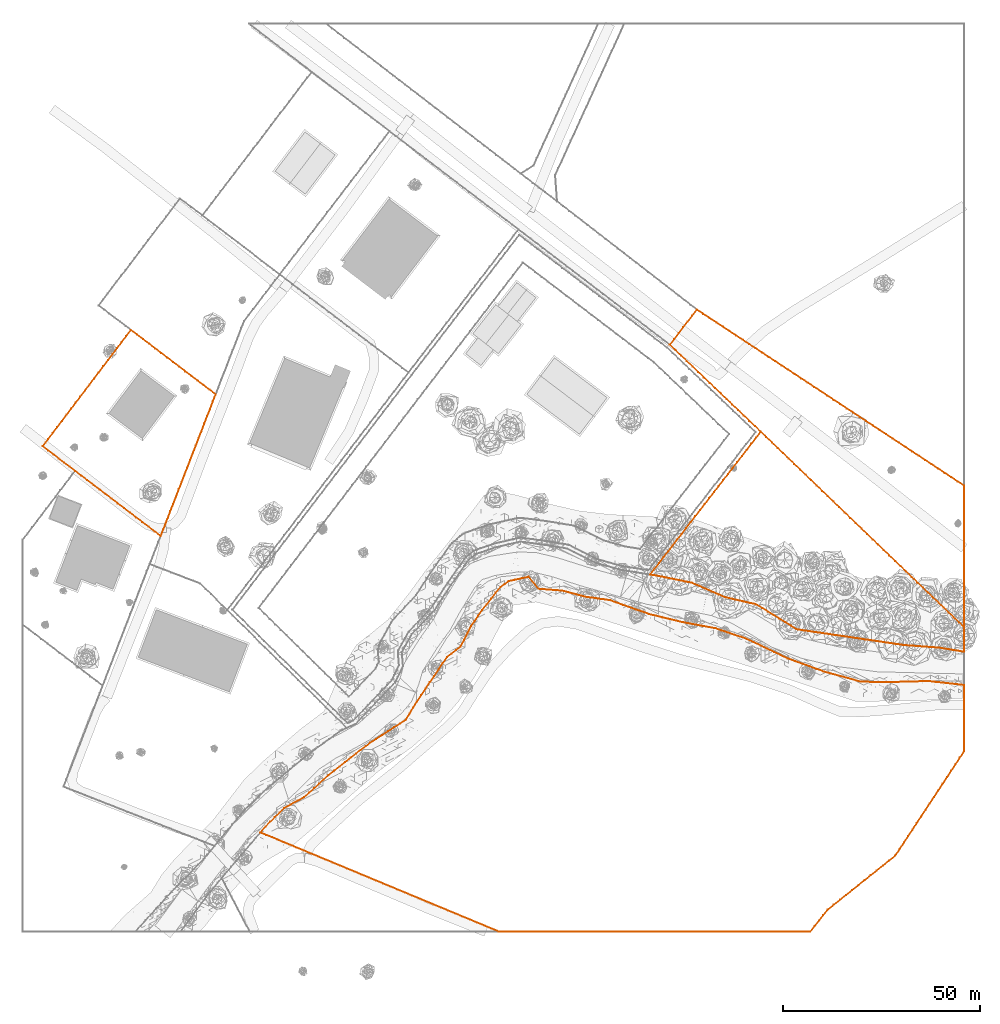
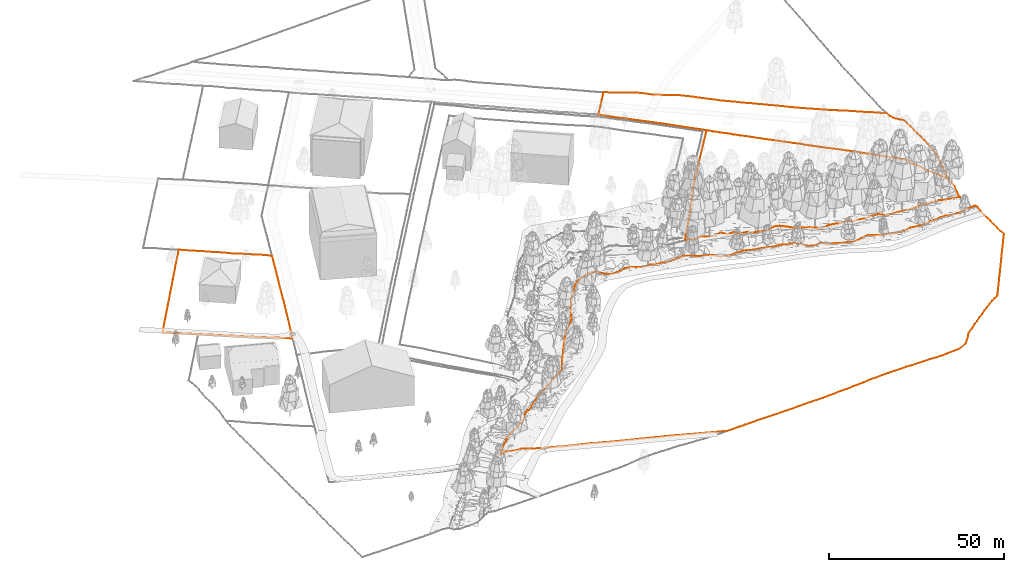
# Not in any storey, part 16 of 88: 4 geographic elements.
"""IFC4 model written with IfcOpenShell, lengths in metres."""

from ifc_helpers import new_model, entity, si_unit, origin_with_axes, place, context, subcontext, project, spatial, element, save


model = new_model("IFC4")

# Units and contexts
model_context = context("Model", 3, precision=1e-05, world=origin_with_axes())
body_context = subcontext(model_context, "Body", "Model", "MODEL_VIEW")
ifc_project = project(units=[si_unit("LENGTHUNIT", "METRE"), si_unit("AREAUNIT", "SQUARE_METRE"), si_unit("VOLUMEUNIT", "CUBIC_METRE"), si_unit("PLANEANGLEUNIT", "RADIAN")], contexts=[model_context])

# Sites
site_1_placement = place(None, origin_with_axes())
site_1 = spatial("IfcSite", under=ifc_project, at=site_1_placement, Name="CH907857693633", CompositionType="ELEMENT")
site_2_placement = place(None, origin_with_axes())
site_2 = spatial("IfcSite", under=site_1, at=site_2_placement, Name="Parcels", CompositionType="ELEMENT")

# Geographic elements
geographic_element_1_placement = place(None, origin_with_axes())
element("IfcGeographicElement", 1, at=geographic_element_1_placement, inside=site_2, Name="Parcel_CH333678576969", ObjectType="PARCEL", PredefinedType="USERDEFINED", context=body_context, shape_type="Curve3D", body=[
    entity("IfcIndexedPolyCurve", entity("IfcCartesianPointList3D", [[170.765514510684, 157.575146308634, 8.92451171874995], [172.417575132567, 156.486920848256, 8.97187499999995], [174.069635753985, 155.39869538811, 9.0239379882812], [175.721696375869, 154.310469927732, 9.03754882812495], [177.373756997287, 153.222244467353, 9.0946166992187], [179.025817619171, 152.134019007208, 9.17438964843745], [180.677878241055, 151.045793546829, 8.9670532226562], [182.329938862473, 149.957568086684, 8.7356079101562], [183.981999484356, 148.869342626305, 8.70930175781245], [185.634060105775, 147.781117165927, 8.7087524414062], [187.286120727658, 146.692891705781, 8.81452636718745], [188.938181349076, 145.604666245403, 8.76936035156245], [190.59024197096, 144.516440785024, 8.61457519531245], [192.242302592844, 143.428215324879, 8.42915039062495], [193.894363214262, 142.3399898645, 8.13544921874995], [195.546423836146, 141.251764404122, 7.9139526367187], [197.198484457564, 140.163538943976, 7.68159179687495], [198.850545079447, 139.075313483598, 7.4394653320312], [200.502605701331, 137.987088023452, 7.3128784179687], [202.154666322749, 136.898862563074, 7.17402343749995], [203.806726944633, 135.810637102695, 6.97187499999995], [205.458787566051, 134.72241164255, 6.8612182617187], [207.110848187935, 133.634186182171, 6.73383789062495], [208.762908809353, 132.545960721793, 6.61249999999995], [210.414969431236, 131.457735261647, 6.45344238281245], [212.06703005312, 130.369509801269, 6.32331542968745], [213.719090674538, 129.281284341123, 6.1626098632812], [215.371151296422, 128.193058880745, 5.9809692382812], [217.02321191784, 127.104833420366, 5.85139160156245], [218.675272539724, 126.01660796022, 5.73164062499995], [220.327333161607, 124.928382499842, 5.6502807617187], [221.979393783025, 123.840157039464, 5.56208496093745], [223.631454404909, 122.751931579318, 5.4636352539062], [225.283515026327, 121.663706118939, 5.4034545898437], [226.935575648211, 120.575480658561, 5.38032226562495], [228.587636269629, 119.487255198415, 5.32416992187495], [230.239696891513, 118.399029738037, 5.3335083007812], [231.891757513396, 117.310804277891, 5.1772583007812], [233.543818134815, 116.222578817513, 5.13911132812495], [235.195878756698, 115.134353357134, 5.1026733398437], [236.847939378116, 114.046127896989, 5.00239257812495], [238.5, 112.95790243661, 4.9128540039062], [238.5, 110.965221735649, 5.1622436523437], [238.5, 108.972541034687, 5.7679565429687], [238.5, 106.979860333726, 6.6125610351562], [238.5, 104.987179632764, 7.6372192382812], [238.5, 102.994498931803, 8.58833007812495], [238.5, 101.001818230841, 8.7799194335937], [238.5, 99.0091375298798, 8.75947265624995], [238.5, 97.0164568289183, 8.7616088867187], [238.5, 95.0237761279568, 8.6973999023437], [238.5, 93.0310954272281, 8.80390624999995], [238.5, 91.0384147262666, 8.76838378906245], [238.5, 89.0457340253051, 8.66730957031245], [238.5, 87.0530533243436, 8.6086547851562], [238.5, 85.0603726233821, 8.28962402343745], [238.5, 83.0676919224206, 7.20393066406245], [238.5, 81.0750112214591, 5.8814819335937], [238.5, 79.0823305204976, 4.61127929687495], [238.5, 77.0896498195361, 3.71772460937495], [237.193564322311, 78.3408368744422, 4.2642944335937], [235.887128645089, 79.5920239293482, 4.76984863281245], [234.5806929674, 80.8432109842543, 5.4398315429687], [233.274257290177, 82.0943980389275, 5.9685180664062], [231.967821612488, 83.3455850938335, 6.8308227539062], [230.6613859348, 84.5967721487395, 7.2011840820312], [229.354950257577, 85.8479592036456, 8.34516601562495], [228.048514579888, 87.0991462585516, 8.42255859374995], [226.631480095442, 88.4624910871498, 8.38471679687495], [225.214445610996, 89.8258359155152, 8.4040649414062], [223.797411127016, 91.1891807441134, 8.4543579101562], [222.38037664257, 92.5525255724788, 8.4991577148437], [220.963342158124, 93.915870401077, 8.5341918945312], [219.546307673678, 95.2792152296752, 8.56464843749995], [218.129273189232, 96.6425600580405, 8.6467407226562], [216.712238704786, 98.0059048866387, 8.59724121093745], [215.295204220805, 99.3692497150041, 8.61726074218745], [213.878169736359, 100.732594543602, 8.62629394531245], [212.461135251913, 102.095939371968, 8.5526245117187], [211.044100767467, 103.459284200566, 8.56428222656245], [209.627066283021, 104.822629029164, 8.5847290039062], [208.210031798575, 106.185973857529, 8.5348022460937], [206.792997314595, 107.549318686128, 8.64082031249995], [205.375962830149, 108.912663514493, 8.5854614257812], [203.958928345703, 110.276008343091, 8.59724121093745], [202.541893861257, 111.639353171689, 8.59260253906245], [201.12485937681, 113.002698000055, 8.61152343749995], [199.707824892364, 114.366042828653, 8.57380371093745], [198.290790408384, 115.729387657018, 8.5706909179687], [196.873755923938, 117.092732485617, 8.62189941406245], [195.456721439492, 118.456077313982, 8.6348999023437], [194.039686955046, 119.81942214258, 8.6132934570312], [192.6226524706, 121.182766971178, 8.6375854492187], [191.205617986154, 122.546111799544, 8.67255859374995], [189.788583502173, 123.909456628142, 8.6510131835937], [188.371549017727, 125.272801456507, 8.69318847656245], [186.954514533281, 126.636146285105, 8.74311523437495], [185.514014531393, 128.013271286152, 8.79328613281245], [184.073514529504, 129.390396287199, 8.7749145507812], [182.633014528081, 130.767521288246, 8.83918457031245], [181.192514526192, 132.144646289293, 8.8645141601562], [179.752014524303, 133.52177129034, 8.88618164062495], [178.311514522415, 134.898896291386, 8.92194824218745], [176.871014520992, 136.276021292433, 8.9189575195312], [175.430514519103, 137.65314629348, 8.9168823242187], [173.990014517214, 139.03027129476, 8.8963745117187], [172.549514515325, 140.407396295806, 8.8941772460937], [171.109014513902, 141.784521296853, 8.8709838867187], [169.668514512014, 143.1616462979, 8.91791992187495], [168.228014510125, 144.538771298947, 8.80341796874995], [166.787514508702, 145.915896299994, 8.8291137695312], [165.347014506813, 147.29302130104, 8.8986938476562], [163.906514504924, 148.670146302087, 8.9259155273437], [165.049681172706, 150.154312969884, 8.92939453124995], [166.192847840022, 151.638479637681, 8.8504760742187], [167.336014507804, 153.122646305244, 8.88410644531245], [168.479181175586, 154.606812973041, 8.8787963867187], [169.622347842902, 156.090979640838, 8.8570678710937], [170.765514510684, 157.575146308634, 8.92451171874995]]), None, False),
])
geographic_element_2_placement = place(None, origin_with_axes())
element("IfcGeographicElement", 2, at=geographic_element_2_placement, inside=site_2, Name="Parcel_CH345736786432", ObjectType="PARCEL", PredefinedType="USERDEFINED", context=body_context, shape_type="Curve3D", body=[
    entity("IfcIndexedPolyCurve", entity("IfcCartesianPointList3D", [[221.053514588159, 19.2491462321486, 4.10065917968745], [219.49587822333, 18.004328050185, 4.55891113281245], [217.938241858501, 16.7595098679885, 4.9921997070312], [216.380605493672, 15.5146916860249, 5.31757812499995], [214.822969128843, 14.2698735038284, 5.2505004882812], [213.265332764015, 13.0250553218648, 5.52973632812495], [211.70769639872, 11.7802371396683, 5.4586303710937], [210.150060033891, 10.5354189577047, 5.6926391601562], [208.592423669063, 9.29060077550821, 5.6629760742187], [207.034787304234, 8.04578259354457, 5.93732910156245], [205.477150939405, 6.8009644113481, 5.7049682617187], [203.919514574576, 5.55614622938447, 5.9119995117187], [202.81918568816, 4.16710967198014, 6.57893066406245], [201.71885680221, 2.77807311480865, 5.9956176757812], [200.618527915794, 1.38903655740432, 6.38251953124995], [199.518199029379, 0.0, 6.59223632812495], [197.545249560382, 0.0, 5.53376464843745], [195.57230009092, 0.0, 5.41010742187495], [193.599350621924, 0.0, 5.29780273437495], [191.626401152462, 0.0, 5.2284057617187], [189.653451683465, 0.0, 5.2312133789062], [187.680502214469, 0.0, 5.3250854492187], [185.707552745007, 0.0, 5.3242309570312], [183.734603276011, 0.0, 5.3072631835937], [181.761653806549, 0.0, 5.30781249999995], [179.788704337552, 0.0, 5.37958984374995], [177.815754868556, 0.0, 5.3260620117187], [175.842805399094, 0.0, 5.3357055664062], [173.869855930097, 0.0, 5.2910278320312], [171.896906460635, 0.0, 5.2402465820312], [169.923956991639, 0.0, 5.1568725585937], [167.951007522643, 0.0, 5.1015747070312], [165.978058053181, 0.0, 4.84138183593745], [164.005108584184, 0.0, 4.7696655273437], [162.032159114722, 0.0, 4.66022949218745], [160.059209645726, 0.0, 4.58247070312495], [158.086260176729, 0.0, 4.5632446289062], [156.113310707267, 0.0, 4.40095214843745], [154.140361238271, 0.0, 4.29414062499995], [152.167411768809, 0.0, 4.19587402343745], [150.194462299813, 0.0, 4.1524780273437], [148.221512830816, 0.0, 4.1497924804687], [146.248563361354, 0.0, 4.1135375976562], [144.275613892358, 0.0, 4.0267456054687], [142.302664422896, 0.0, 3.97675781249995], [140.329714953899, 0.0, 3.9513061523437], [138.356765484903, 0.0, 3.9362915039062], [136.383816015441, 0.0, 3.88972167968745], [134.410866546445, 0.0, 3.87995605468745], [132.437917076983, 0.0, 3.86213378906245], [130.464967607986, 0.0, 3.9095581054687], [128.49201813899, 0.0, 3.8414428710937], [126.519068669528, 0.0, 3.8045776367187], [124.546119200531, 0.0, 3.75983886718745], [122.573169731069, 0.0, 3.7349975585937], [120.600220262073, 0.0, 3.70441894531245], [118.771816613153, 0.760177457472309, 3.68757324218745], [116.943412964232, 1.52035491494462, 3.6203735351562], [115.115009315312, 2.2805323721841, 3.63105468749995], [113.286605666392, 3.04070982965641, 3.60786132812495], [111.458202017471, 3.80088728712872, 3.57709960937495], [109.629798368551, 4.56106474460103, 3.5564086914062], [107.80139471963, 5.32124220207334, 3.52094726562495], [105.972991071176, 6.08141965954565, 3.53303222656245], [104.144587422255, 6.84159711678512, 3.4757202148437], [102.316183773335, 7.60177457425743, 3.3794067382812], [100.487780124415, 8.36195203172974, 3.3422973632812], [98.6593764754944, 9.12212948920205, 3.25007324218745], [96.830972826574, 9.88230694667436, 3.21955566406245], [95.0025691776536, 10.6424844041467, 3.1294067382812], [93.1741655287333, 11.4026618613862, 3.07343749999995], [91.3457618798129, 12.1628393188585, 3.02412109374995], [89.5173582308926, 12.9230167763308, 2.9578979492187], [87.6889545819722, 13.6831942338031, 2.9395874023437], [85.8605509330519, 14.4433716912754, 2.9138305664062], [84.0321472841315, 15.2035491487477, 2.9380004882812], [82.2037436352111, 15.9637266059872, 2.8758666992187], [80.3753399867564, 16.7239040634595, 2.74238281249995], [78.5469363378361, 17.4840815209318, 2.6682250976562], [76.7185326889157, 18.2442589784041, 2.6029174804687], [74.8901290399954, 19.0044364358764, 2.6087768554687], [73.061725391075, 19.7646138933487, 2.57563476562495], [71.2333217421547, 20.5247913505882, 2.54206542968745], [69.4049180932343, 21.2849688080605, 2.61433105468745], [67.5765144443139, 22.0451462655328, 2.7835815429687], [66.0981144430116, 22.659746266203, 2.87946777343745], [64.6197144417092, 23.2743462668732, 2.4980590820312], [63.1413144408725, 23.8889462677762, 2.3403442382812], [61.6629144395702, 24.5035462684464, 2.1942260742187], [60.1845144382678, 25.1181462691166, 1.3946655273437], [61.479514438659, 26.642146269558, 1.5798461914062], [62.6652644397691, 27.8101462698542, 1.4439819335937], [63.8510144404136, 28.9781462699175, 1.5888793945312], [65.036764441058, 30.1461462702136, 1.70771484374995], [66.2225144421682, 31.3141462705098, 1.3382690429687], [67.9105144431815, 32.2334796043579, 2.00812988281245], [69.5985144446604, 33.1528129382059, 1.9397094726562], [71.2865144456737, 34.0721462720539, 2.0304077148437], [72.5289144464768, 35.1933462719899, 1.96540527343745], [73.77131444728, 36.3145462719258, 1.03156738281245], [75.0137144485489, 37.4357462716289, 1.19514160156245], [76.256114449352, 38.5569462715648, 2.2555053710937], [77.4985144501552, 39.6781462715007, 1.96711425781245], [78.8799144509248, 40.7729462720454, 0.826977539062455], [80.2613144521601, 41.8677462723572, 1.17353515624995], [81.6427144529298, 42.9625462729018, 1.1486938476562], [83.0241144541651, 44.0573462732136, 1.4890258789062], [84.4055144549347, 45.1521462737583, 1.0896118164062], [85.6128477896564, 46.0471462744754, 1.05158691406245], [86.8201811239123, 46.9421462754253, 1.05512695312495], [88.027514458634, 47.8371462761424, 0.772534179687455], [89.5316811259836, 48.8178129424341, 0.766308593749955], [91.0358477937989, 49.7984796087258, 0.820935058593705], [92.5400144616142, 50.7791462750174, 0.785107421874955], [94.0441811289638, 51.7598129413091, 0.693737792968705], [95.5483477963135, 52.7404796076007, 0.915844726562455], [97.0525144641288, 53.7211462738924, 1.0943725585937], [97.9921811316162, 55.25847960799, 1.01240234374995], [98.931847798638, 56.7958129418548, 1.14033203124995], [99.8715144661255, 58.3331462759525, 1.0946166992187], [100.954371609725, 59.9390034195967, 1.0804565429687], [102.037228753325, 61.5448605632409, 0.949536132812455], [103.120085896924, 63.1507177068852, 1.03205566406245], [104.202943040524, 64.7565748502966, 0.918347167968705], [105.285800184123, 66.3624319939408, 1.1291625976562], [106.368657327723, 67.9682891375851, 1.38459472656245], [107.451514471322, 69.5741462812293, 1.07807617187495], [108.595514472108, 70.4391462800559, 1.1226928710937], [109.739514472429, 71.3041462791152, 1.24836425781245], [110.883514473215, 72.1691462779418, 2.59272460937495], [111.769514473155, 73.9011462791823, 2.36335449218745], [112.655514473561, 75.63314628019, 1.7723510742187], [113.541514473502, 77.3651462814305, 2.2749145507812], [114.476181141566, 78.7194796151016, 2.13032226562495], [115.410847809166, 80.0738129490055, 2.54536132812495], [116.345514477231, 81.4281462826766, 2.3761108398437], [117.514014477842, 82.9046462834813, 2.14729003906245], [118.682514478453, 84.3811462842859, 1.5261352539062], [119.851014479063, 85.8576462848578, 2.1803100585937], [121.019514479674, 87.3341462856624, 1.9506958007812], [122.023514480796, 88.0481462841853, 2.1771362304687], [123.027514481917, 88.7621462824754, 1.7244995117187], [124.754514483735, 89.1448129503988, 2.32514648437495], [126.481514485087, 89.5274796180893, 2.42377929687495], [128.208514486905, 89.9101462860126, 2.0880249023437], [129.449014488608, 88.3791462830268, 2.3816040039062], [130.68951449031, 86.8481462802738, 2.3628051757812], [132.189514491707, 86.7298962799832, 1.8831909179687], [133.689514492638, 86.6116462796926, 1.75336914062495], [135.189514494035, 86.4933962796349, 1.98090820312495], [136.689514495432, 86.3751462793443, 2.6187866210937], [138.589181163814, 85.8678129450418, 2.5227172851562], [140.488847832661, 85.3604796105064, 2.1477172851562], [142.388514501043, 84.8531462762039, 1.9937866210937], [143.986514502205, 84.6293962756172, 2.36823730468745], [145.584514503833, 84.4056462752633, 1.86188964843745], [147.182514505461, 84.1818962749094, 2.04877929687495], [148.780514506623, 83.9581462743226, 1.73859863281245], [150.434514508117, 83.3691462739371, 2.2077758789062], [152.088514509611, 82.7801462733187, 2.66926269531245], [153.74251451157, 82.1911462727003, 3.28474121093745], [155.396514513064, 81.6021462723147, 3.2542846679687], [157.050514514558, 81.0131462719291, 2.88984374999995], [158.704514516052, 80.4241462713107, 2.7461059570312], [160.418314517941, 80.0113462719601, 2.6536987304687], [162.132114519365, 79.5985462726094, 2.26386718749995], [163.845914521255, 79.1857462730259, 1.5006225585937], [165.559714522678, 78.7729462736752, 1.28278808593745], [167.273514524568, 78.3601462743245, 1.3446166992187], [168.914114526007, 78.054946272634, 1.6294067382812], [170.554714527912, 77.7497462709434, 1.99848632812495], [172.195314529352, 77.4445462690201, 1.8858764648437], [173.835914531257, 77.1393462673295, 1.59870605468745], [175.476514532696, 76.834146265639, 1.6226928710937], [177.068114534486, 76.2951462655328, 1.66816406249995], [178.659714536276, 75.7561462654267, 1.6958129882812], [180.2513145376, 75.2171462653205, 1.76984863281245], [181.842914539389, 74.6781462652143, 2.04145507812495], [183.434514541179, 74.1391462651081, 1.8524291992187], [185.159014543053, 73.3161462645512, 2.30256347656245], [186.883514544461, 72.4931462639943, 1.7949340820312], [188.608014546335, 71.6701462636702, 1.0931518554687], [190.332514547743, 70.8471462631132, 1.03242187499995], [192.057014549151, 70.0241462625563, 1.96870117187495], [193.781514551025, 69.2011462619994, 1.2664916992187], [195.613114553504, 68.5381462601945, 1.57453613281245], [197.444714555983, 67.8751462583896, 1.3088500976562], [199.276314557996, 67.2121462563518, 1.38251953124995], [201.107914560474, 66.5491462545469, 1.30207519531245], [202.939514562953, 65.886146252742, 2.26032714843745], [204.8131145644, 65.3703462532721, 2.95283203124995], [206.686714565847, 64.8545462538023, 2.71381835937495], [208.560314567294, 64.3387462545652, 2.2166870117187], [210.433914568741, 63.8229462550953, 2.42805175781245], [212.307514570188, 63.3071462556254, 2.18781738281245], [214.0860145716, 63.2813962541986, 2.0399291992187], [215.864514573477, 63.255646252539, 1.88691406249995], [217.643014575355, 63.2298962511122, 2.4367797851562], [219.421514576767, 63.2041462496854, 2.10358886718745], [221.100347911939, 63.2484795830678, 2.0941284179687], [222.779181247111, 63.2928129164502, 1.97211914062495], [224.458014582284, 63.3371462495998, 2.23688964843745], [226.136847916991, 63.3814795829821, 2.17048339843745], [227.815681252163, 63.4258129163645, 2.3833129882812], [229.494514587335, 63.4701462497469, 2.3026245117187], [231.295611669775, 63.2697043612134, 1.93354492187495], [233.096708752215, 63.0692624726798, 2.1490600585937], [234.89780583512, 62.8688205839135, 2.19001464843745], [236.69890291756, 62.6683786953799, 2.9755981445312], [238.5, 62.4679368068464, 3.21369628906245], [238.5, 60.6058764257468, 3.90656738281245], [238.5, 58.7438160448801, 3.4353149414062], [238.5, 56.8817556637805, 3.34394531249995], [238.5, 55.0196952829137, 3.41193847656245], [238.5, 53.1576349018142, 3.5019653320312], [238.5, 51.2955745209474, 3.4857299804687], [238.5, 49.4335141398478, 3.4774291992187], [238.5, 47.5714537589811, 3.4492309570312], [238.5, 45.7093933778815, 3.5102661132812], [237.409594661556, 44.0556279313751, 3.50727539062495], [236.319189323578, 42.4018624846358, 3.52167968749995], [235.228783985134, 40.7480970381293, 3.5195434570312], [234.138378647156, 39.0943315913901, 3.6294067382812], [233.047973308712, 37.4405661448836, 3.54047851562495], [231.957567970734, 35.7868006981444, 3.64570312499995], [230.86716263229, 34.1330352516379, 3.5127075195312], [229.776757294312, 32.4792698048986, 3.46052246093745], [228.686351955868, 30.8255043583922, 3.52204589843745], [227.595946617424, 29.1717389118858, 3.6171997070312], [226.505541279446, 27.5179734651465, 3.64521484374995], [225.415135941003, 25.8642080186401, 3.6930053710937], [224.324730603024, 24.2104425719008, 3.8161743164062], [223.234325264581, 22.5566771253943, 3.82783203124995], [222.143919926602, 20.9029116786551, 3.94428710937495], [221.053514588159, 19.2491462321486, 4.10065917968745]]), None, False),
])
geographic_element_3_placement = place(None, origin_with_axes())
element("IfcGeographicElement", 3, at=geographic_element_3_placement, inside=site_2, Name="Parcel_CH307857643658", ObjectType="PARCEL", PredefinedType="USERDEFINED", context=body_context, shape_type="Curve3D", body=[
    entity("IfcIndexedPolyCurve", entity("IfcCartesianPointList3D", [[169.172514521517, 103.688146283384, 8.09907226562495], [170.357981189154, 105.21801295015, 8.62873535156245], [171.543447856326, 106.747879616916, 8.66047363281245], [172.728914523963, 108.277746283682, 8.6737182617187], [173.914381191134, 109.807612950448, 8.70808105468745], [175.099847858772, 111.337479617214, 8.75617675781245], [176.285314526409, 112.86734628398, 8.7750366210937], [177.47078119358, 114.397212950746, 8.7402465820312], [178.656247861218, 115.927079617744, 8.76826171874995], [179.841714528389, 117.45694628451, 8.84296874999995], [181.027181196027, 118.986812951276, 8.7741821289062], [182.212647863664, 120.516679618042, 8.70124511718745], [183.398114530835, 122.046546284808, 8.75922851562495], [184.583581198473, 123.576412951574, 8.77521972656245], [185.769047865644, 125.10627961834, 8.7719848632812], [186.954514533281, 126.636146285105, 8.74311523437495], [188.371549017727, 125.272801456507, 8.69318847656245], [189.788583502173, 123.909456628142, 8.6510131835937], [191.205617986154, 122.546111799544, 8.67255859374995], [192.6226524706, 121.182766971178, 8.6375854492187], [194.039686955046, 119.81942214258, 8.6132934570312], [195.456721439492, 118.456077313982, 8.6348999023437], [196.873755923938, 117.092732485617, 8.62189941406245], [198.290790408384, 115.729387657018, 8.5706909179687], [199.707824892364, 114.366042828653, 8.57380371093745], [201.12485937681, 113.002698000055, 8.61152343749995], [202.541893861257, 111.639353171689, 8.59260253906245], [203.958928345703, 110.276008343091, 8.59724121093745], [205.375962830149, 108.912663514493, 8.5854614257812], [206.792997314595, 107.549318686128, 8.64082031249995], [208.210031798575, 106.185973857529, 8.5348022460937], [209.627066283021, 104.822629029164, 8.5847290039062], [211.044100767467, 103.459284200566, 8.56428222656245], [212.461135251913, 102.095939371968, 8.5526245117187], [213.878169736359, 100.732594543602, 8.62629394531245], [215.295204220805, 99.3692497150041, 8.61726074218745], [216.712238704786, 98.0059048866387, 8.59724121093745], [218.129273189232, 96.6425600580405, 8.6467407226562], [219.546307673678, 95.2792152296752, 8.56464843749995], [220.963342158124, 93.915870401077, 8.5341918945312], [222.38037664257, 92.5525255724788, 8.4991577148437], [223.797411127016, 91.1891807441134, 8.4543579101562], [225.214445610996, 89.8258359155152, 8.4040649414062], [226.631480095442, 88.4624910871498, 8.38471679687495], [228.048514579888, 87.0991462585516, 8.42255859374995], [229.354950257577, 85.8479592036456, 8.34516601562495], [230.6613859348, 84.5967721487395, 7.2011840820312], [231.967821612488, 83.3455850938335, 6.8308227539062], [233.274257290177, 82.0943980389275, 5.9685180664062], [234.5806929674, 80.8432109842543, 5.4398315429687], [235.887128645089, 79.5920239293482, 4.76984863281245], [237.193564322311, 78.3408368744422, 4.2642944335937], [238.5, 77.0896498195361, 3.71772460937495], [238.5, 75.5397278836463, 3.31696777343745], [238.5, 73.9898059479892, 3.1836059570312], [238.5, 72.4398840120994, 1.8778198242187], [238.5, 70.8899620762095, 1.16474609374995], [236.93587864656, 71.1467581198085, 1.22065429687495], [235.371757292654, 71.4035541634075, 1.30476074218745], [233.807635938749, 71.6603502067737, 1.1987426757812], [232.243514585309, 71.9171462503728, 1.60432128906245], [230.413514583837, 72.0551462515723, 1.60175781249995], [228.583514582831, 72.1931462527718, 1.51472167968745], [226.75351458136, 72.3311462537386, 1.90852050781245], [224.923514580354, 72.4691462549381, 1.3280151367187], [223.093514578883, 72.6071462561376, 1.2801635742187], [221.162300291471, 72.8909319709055, 1.33869628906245], [219.231086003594, 73.1747176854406, 1.24116210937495], [217.299871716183, 73.4585034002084, 1.0871704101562], [215.368657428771, 73.7422891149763, 1.1278198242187], [213.437443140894, 74.0260748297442, 2.05793457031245], [211.506228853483, 74.3098605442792, 1.9664428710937], [209.575014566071, 74.5936462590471, 1.6384399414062], [207.643800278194, 74.877431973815, 1.73920898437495], [205.712585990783, 75.16121768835, 1.62983398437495], [203.781371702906, 75.4450034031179, 2.17683105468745], [201.850157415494, 75.7287891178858, 1.9503295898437], [199.918943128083, 76.0125748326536, 2.16657714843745], [197.987728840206, 76.2963605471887, 2.27570800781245], [196.056514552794, 76.5801462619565, 1.50971679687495], [194.596085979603, 77.4831462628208, 1.9321411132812], [193.135657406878, 78.3861462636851, 1.91706542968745], [191.675228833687, 79.2891462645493, 1.8447387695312], [190.214800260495, 80.1921462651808, 1.7945678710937], [188.754371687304, 81.095146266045, 1.7928588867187], [187.293943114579, 81.9981462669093, 2.0726440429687], [185.833514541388, 82.9011462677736, 2.2712524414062], [184.256714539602, 83.2605462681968, 2.3787963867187], [182.679914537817, 83.61994626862, 1.66450195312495], [181.103114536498, 83.9793462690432, 1.49042968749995], [179.526314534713, 84.3387462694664, 1.54072265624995], [177.949514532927, 84.6981462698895, 1.5405395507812], [176.260514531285, 85.4315462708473, 1.9362915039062], [174.571514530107, 86.1649462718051, 1.43464355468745], [172.882514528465, 86.8983462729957, 2.11665039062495], [171.193514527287, 87.6317462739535, 1.61274414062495], [169.504514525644, 88.3651462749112, 2.3094604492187], [167.833314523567, 88.7073462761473, 1.65461425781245], [166.162114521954, 89.0495462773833, 1.7122924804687], [164.490914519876, 89.3917462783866, 2.02302246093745], [162.819714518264, 89.7339462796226, 2.11774902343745], [161.148514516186, 90.0761462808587, 1.6859252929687], [160.029514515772, 90.2596462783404, 2.13496093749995], [158.910514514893, 90.4431462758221, 2.00043945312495], [160.050736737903, 91.9148129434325, 2.67280273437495], [161.190958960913, 93.3864796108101, 2.6038940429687], [162.331181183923, 94.8581462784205, 3.0072143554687], [163.471403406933, 96.329812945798, 3.48774414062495], [164.611625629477, 97.8014796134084, 3.99726562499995], [165.751847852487, 99.273146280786, 5.1098754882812], [166.892070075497, 100.744812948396, 5.7978637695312], [168.032292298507, 102.216479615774, 6.92988281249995], [169.172514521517, 103.688146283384, 8.09907226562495]]), None, False),
])
geographic_element_4_placement = place(None, origin_with_axes())
element("IfcGeographicElement", 4, at=geographic_element_4_placement, inside=site_2, Name="Parcel_CH293678645793", ObjectType="PARCEL", PredefinedType="USERDEFINED", context=body_context, shape_type="Curve3D", body=[
    entity("IfcIndexedPolyCurve", entity("IfcCartesianPointList3D", [[37.3775143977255, 106.511146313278, 5.7428100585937], [36.7645143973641, 104.938646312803, 5.5822875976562], [36.1515143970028, 103.366146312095, 5.42145996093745], [35.5385143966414, 101.79364631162, 5.32978515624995], [34.9255143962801, 100.221146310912, 5.2085083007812], [33.3760858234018, 101.399074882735, 5.16865234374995], [31.8266572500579, 102.57700345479, 5.11604003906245], [30.2772286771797, 103.754932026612, 5.04609374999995], [28.7278001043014, 104.932860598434, 4.94758300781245], [27.1783715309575, 106.110789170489, 4.89863281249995], [25.6289429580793, 107.288717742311, 4.78352050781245], [24.079514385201, 108.466646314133, 4.74458007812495], [22.5300858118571, 109.644574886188, 4.67951660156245], [20.9806572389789, 110.82250345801, 4.63435058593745], [19.431228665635, 112.000432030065, 4.5578735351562], [17.8818000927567, 113.178360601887, 4.48371582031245], [16.3323715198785, 114.356289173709, 4.46333007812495], [14.7829429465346, 115.534217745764, 4.4079711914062], [13.2335143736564, 116.712146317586, 4.3171508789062], [11.8655143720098, 117.752312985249, 4.2804077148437], [10.4975143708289, 118.792479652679, 4.21503906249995], [9.12951436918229, 119.832646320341, 4.17353515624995], [7.76151436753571, 120.872812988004, 4.14350585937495], [6.39351436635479, 121.912979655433, 4.0681274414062], [5.02551436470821, 122.953146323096, 4.00556640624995], [5.7230143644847, 123.873146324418, 4.0100219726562], [6.42051436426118, 124.793146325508, 4.22724609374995], [7.58451436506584, 126.328590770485, 4.6125610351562], [8.74851436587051, 127.864035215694, 4.66059570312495], [9.91251436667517, 129.399479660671, 4.80988769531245], [11.0765143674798, 130.934924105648, 4.96455078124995], [12.2405143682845, 132.470368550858, 5.06647949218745], [13.4045143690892, 134.005812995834, 5.27827148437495], [14.5685143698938, 135.541257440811, 5.41779785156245], [15.7325143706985, 137.076701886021, 5.5675170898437], [16.8965143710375, 138.612146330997, 5.80170898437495], [18.0605143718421, 140.147590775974, 5.95490722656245], [19.2245143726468, 141.683035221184, 6.08283691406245], [20.3885143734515, 143.21847966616, 6.32758789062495], [21.5525143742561, 144.753924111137, 6.54218749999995], [22.7165143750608, 146.289368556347, 6.71516113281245], [23.8805143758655, 147.824813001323, 6.8455932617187], [25.0445143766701, 149.3602574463, 6.97724609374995], [26.2085143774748, 150.89570189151, 7.0100219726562], [27.3725143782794, 152.431146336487, 7.23017578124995], [28.906442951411, 151.265217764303, 7.24665527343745], [30.4403715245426, 150.099289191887, 7.23200683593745], [31.9743000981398, 148.933360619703, 7.30036621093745], [33.5082286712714, 147.76743204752, 7.31159667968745], [35.0421572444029, 146.601503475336, 7.3095825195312], [36.5760858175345, 145.43557490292, 7.36677246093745], [38.1100143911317, 144.269646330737, 7.3541381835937], [39.6439429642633, 143.103717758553, 7.2832153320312], [41.1778715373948, 141.937789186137, 7.39973144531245], [42.7118001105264, 140.771860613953, 7.42976074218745], [44.2457286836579, 139.60593204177, 7.4654663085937], [45.7796572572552, 138.440003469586, 7.5372436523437], [47.3135858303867, 137.27407489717, 7.57600097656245], [48.8475144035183, 136.108146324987, 7.38911132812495], [48.1306394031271, 134.258333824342, 7.3464477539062], [47.413764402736, 132.408521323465, 7.2655151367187], [46.6968894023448, 130.55870882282, 7.14753417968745], [45.9800144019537, 128.708896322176, 7.04768066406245], [45.2631394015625, 126.859083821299, 6.97211914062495], [44.5462644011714, 125.009271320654, 6.89875488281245], [43.8293894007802, 123.159458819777, 6.70869140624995], [43.1125144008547, 121.309646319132, 6.64887695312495], [42.3956394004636, 119.459833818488, 6.5467651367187], [41.6787644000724, 117.610021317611, 6.58686523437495], [40.9618893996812, 115.760208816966, 6.5197875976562], [40.2450143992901, 113.910396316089, 6.4563110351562], [39.5281393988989, 112.060583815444, 6.24763183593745], [38.8112643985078, 110.2107713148, 6.10749511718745], [38.0943893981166, 108.360958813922, 6.02961425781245], [37.3775143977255, 106.511146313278, 5.7428100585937]]), None, False),
])

save(model, "model.ifc")
